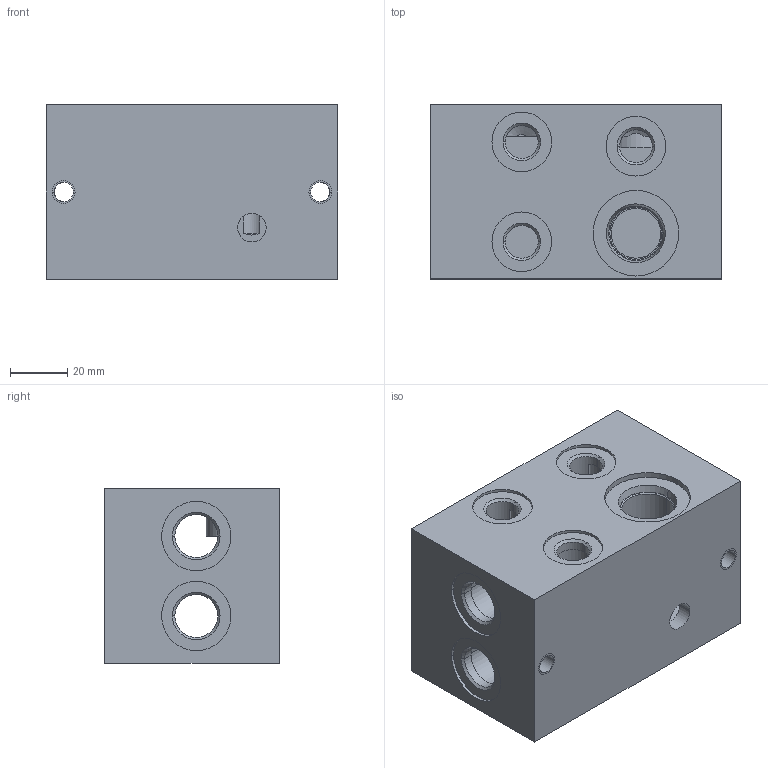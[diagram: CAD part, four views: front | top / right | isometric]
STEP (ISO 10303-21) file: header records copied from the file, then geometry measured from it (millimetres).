
FILE_DESCRIPTION((''),'2;1');
FILE_NAME('760_7010','2015-11-27T',('Ahcz.brigadnik05'),(''),'PRO/ENGINEER BY PARAMETRIC TECHNOLOGY CORPORATION, 2015110','PRO/ENGINEER BY PARAMETRIC TECHNOLOGY CORPORATION, 2015110','');
FILE_SCHEMA(('AUTOMOTIVE_DESIGN { 1 0 10303 214 1 1 1 1 }'));
Length unit declared in the file: millimetre
Products named in the file (1): 760_7010
Bounding box: 102 x 61 x 61 mm (x, y, z)
Volume: 148408.8 mm3; surface area: 65304 mm2
Topology: 1 solids, 20 shells, 197 faces, 953 edges, 834 vertices
Faces by surface type: cylinder 115, plane 46, cone 36
Entity records: 10563 total; most frequent: CARTESIAN_POINT 2005, DIRECTION 1618, ORIENTED_EDGE 1018, VECTOR 610, LINE 610, EDGE_CURVE 547, AXIS2_PLACEMENT_3D 504, TRIMMED_CURVE 401
